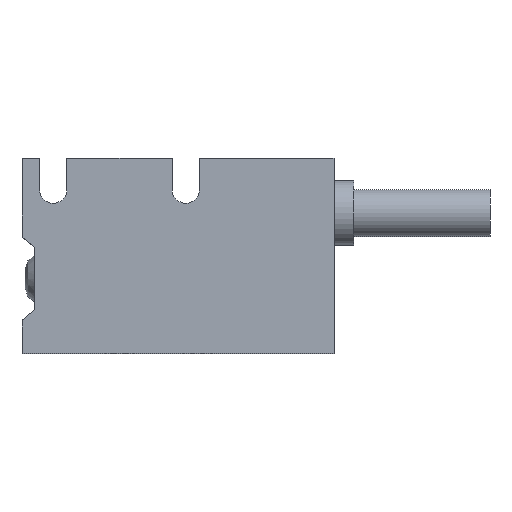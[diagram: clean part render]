
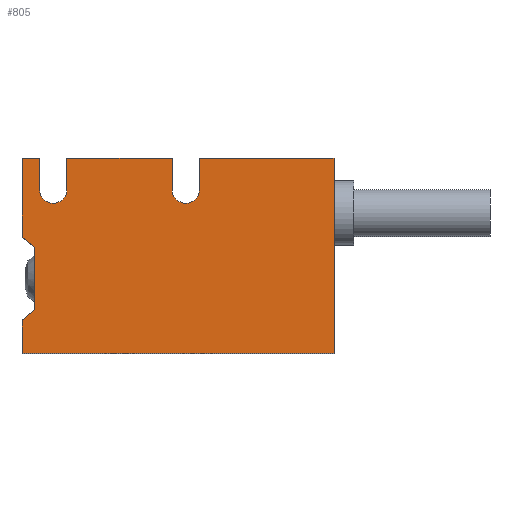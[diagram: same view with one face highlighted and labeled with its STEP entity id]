
A CAD part, top view. The second image highlights one B-rep face of the part: STEP entity #805.
In plain terms, the highlighted planar face has unit normal (0, 0, 1).
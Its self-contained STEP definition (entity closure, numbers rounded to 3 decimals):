
#150=CARTESIAN_POINT('',(0.,4.3,5.1));
#151=VERTEX_POINT('',#150);
#158=CARTESIAN_POINT('',(1.6,5.6,5.1));
#159=VERTEX_POINT('',#158);
#160=CARTESIAN_POINT('',(1.6,5.6,5.1));
#161=DIRECTION('',(-0.776,-0.631,0.0));
#162=VECTOR('',#161,2.062);
#163=LINE('',#160,#162);
#164=EDGE_CURVE('',#159,#151,#163,.T.);
#189=CARTESIAN_POINT('',(1.6,13.6,5.1));
#190=VERTEX_POINT('',#189);
#191=CARTESIAN_POINT('',(1.6,13.6,5.1));
#192=DIRECTION('',(0.0,-1.0,0.0));
#193=VECTOR('',#192,8.);
#194=LINE('',#191,#193);
#195=EDGE_CURVE('',#190,#159,#194,.T.);
#223=CARTESIAN_POINT('',(0.,14.9,5.1));
#224=VERTEX_POINT('',#223);
#225=CARTESIAN_POINT('',(0.,14.9,5.1));
#226=DIRECTION('',(0.776,-0.631,0.0));
#227=VECTOR('',#226,2.062);
#228=LINE('',#225,#227);
#229=EDGE_CURVE('',#224,#190,#228,.T.);
#361=CARTESIAN_POINT('',(0.,25.,5.1));
#362=VERTEX_POINT('',#361);
#363=CARTESIAN_POINT('',(0.,14.9,5.1));
#364=DIRECTION('',(0.0,1.0,0.0));
#365=VECTOR('',#364,10.1);
#366=LINE('',#363,#365);
#367=EDGE_CURVE('',#224,#362,#366,.T.);
#489=CARTESIAN_POINT('',(40.,25.,5.1));
#490=VERTEX_POINT('',#489);
#491=CARTESIAN_POINT('',(40.,0.,5.1));
#492=VERTEX_POINT('',#491);
#493=CARTESIAN_POINT('',(40.,25.,5.1));
#494=DIRECTION('',(0.0,-1.0,0.0));
#495=VECTOR('',#494,25.);
#496=LINE('',#493,#495);
#497=EDGE_CURVE('',#490,#492,#496,.T.);
#523=CARTESIAN_POINT('',(0.0,0.0,5.1));
#524=VERTEX_POINT('',#523);
#525=CARTESIAN_POINT('',(40.,0.,5.1));
#526=DIRECTION('',(-1.0,0.0,0.0));
#527=VECTOR('',#526,40.);
#528=LINE('',#525,#527);
#529=EDGE_CURVE('',#492,#524,#528,.T.);
#550=CARTESIAN_POINT('',(0.0,0.0,5.1));
#551=DIRECTION('',(0.0,1.0,0.0));
#552=VECTOR('',#551,4.3);
#553=LINE('',#550,#552);
#554=EDGE_CURVE('',#524,#151,#553,.T.);
#564=CARTESIAN_POINT('',(2.25,25.,5.1));
#565=VERTEX_POINT('',#564);
#566=CARTESIAN_POINT('',(0.,25.,5.1));
#567=DIRECTION('',(1.0,0.0,0.0));
#568=VECTOR('',#567,2.25);
#569=LINE('',#566,#568);
#570=EDGE_CURVE('',#362,#565,#569,.T.);
#588=CARTESIAN_POINT('',(2.25,21.,5.1));
#589=VERTEX_POINT('',#588);
#590=CARTESIAN_POINT('',(2.25,25.,5.1));
#591=DIRECTION('',(0.0,-1.0,0.0));
#592=VECTOR('',#591,4.);
#593=LINE('',#590,#592);
#594=EDGE_CURVE('',#565,#589,#593,.T.);
#612=CARTESIAN_POINT('',(5.75,21.,5.1));
#613=VERTEX_POINT('',#612);
#614=CARTESIAN_POINT('',(4.,21.,5.1));
#615=DIRECTION('',(0.0,0.0,1.0));
#616=DIRECTION('',(-1.0,0.0,0.0));
#617=AXIS2_PLACEMENT_3D('',#614,#615,#616);
#618=CIRCLE('',#617,1.75);
#619=EDGE_CURVE('',#589,#613,#618,.T.);
#637=CARTESIAN_POINT('',(5.75,25.,5.1));
#638=VERTEX_POINT('',#637);
#639=CARTESIAN_POINT('',(5.75,21.,5.1));
#640=DIRECTION('',(0.0,1.0,0.0));
#641=VECTOR('',#640,4.);
#642=LINE('',#639,#641);
#643=EDGE_CURVE('',#613,#638,#642,.T.);
#661=CARTESIAN_POINT('',(19.25,25.,5.1));
#662=VERTEX_POINT('',#661);
#663=CARTESIAN_POINT('',(5.75,25.,5.1));
#664=DIRECTION('',(1.0,0.0,0.0));
#665=VECTOR('',#664,13.5);
#666=LINE('',#663,#665);
#667=EDGE_CURVE('',#638,#662,#666,.T.);
#685=CARTESIAN_POINT('',(19.25,21.,5.1));
#686=VERTEX_POINT('',#685);
#687=CARTESIAN_POINT('',(19.25,25.,5.1));
#688=DIRECTION('',(0.0,-1.0,0.0));
#689=VECTOR('',#688,4.);
#690=LINE('',#687,#689);
#691=EDGE_CURVE('',#662,#686,#690,.T.);
#709=CARTESIAN_POINT('',(22.75,21.,5.1));
#710=VERTEX_POINT('',#709);
#711=CARTESIAN_POINT('',(21.,21.,5.1));
#712=DIRECTION('',(0.0,0.0,1.0));
#713=DIRECTION('',(-1.0,0.0,0.0));
#714=AXIS2_PLACEMENT_3D('',#711,#712,#713);
#715=CIRCLE('',#714,1.75);
#716=EDGE_CURVE('',#686,#710,#715,.T.);
#734=CARTESIAN_POINT('',(22.75,25.,5.1));
#735=VERTEX_POINT('',#734);
#736=CARTESIAN_POINT('',(22.75,21.,5.1));
#737=DIRECTION('',(0.0,1.0,0.0));
#738=VECTOR('',#737,4.);
#739=LINE('',#736,#738);
#740=EDGE_CURVE('',#710,#735,#739,.T.);
#758=CARTESIAN_POINT('',(22.75,25.,5.1));
#759=DIRECTION('',(1.0,0.0,0.0));
#760=VECTOR('',#759,17.25);
#761=LINE('',#758,#760);
#762=EDGE_CURVE('',#735,#490,#761,.T.);
#782=CARTESIAN_POINT('',(19.,13.586,5.1));
#783=DIRECTION('',(0.0,0.0,1.0));
#784=DIRECTION('',(1.0,0.0,0.0));
#785=AXIS2_PLACEMENT_3D('',#782,#783,#784);
#786=PLANE('',#785);
#787=ORIENTED_EDGE('',*,*,#164,.T.);
#788=ORIENTED_EDGE('',*,*,#554,.F.);
#789=ORIENTED_EDGE('',*,*,#529,.F.);
#790=ORIENTED_EDGE('',*,*,#497,.F.);
#791=ORIENTED_EDGE('',*,*,#762,.F.);
#792=ORIENTED_EDGE('',*,*,#740,.F.);
#793=ORIENTED_EDGE('',*,*,#716,.F.);
#794=ORIENTED_EDGE('',*,*,#691,.F.);
#795=ORIENTED_EDGE('',*,*,#667,.F.);
#796=ORIENTED_EDGE('',*,*,#643,.F.);
#797=ORIENTED_EDGE('',*,*,#619,.F.);
#798=ORIENTED_EDGE('',*,*,#594,.F.);
#799=ORIENTED_EDGE('',*,*,#570,.F.);
#800=ORIENTED_EDGE('',*,*,#367,.F.);
#801=ORIENTED_EDGE('',*,*,#229,.T.);
#802=ORIENTED_EDGE('',*,*,#195,.T.);
#803=EDGE_LOOP('',(#787,#788,#789,#790,#791,#792,#793,#794,#795,#796,#797,#798,#799,#800,#801,#802));
#804=FACE_OUTER_BOUND('',#803,.T.);
#805=ADVANCED_FACE('',(#804),#786,.T.);
